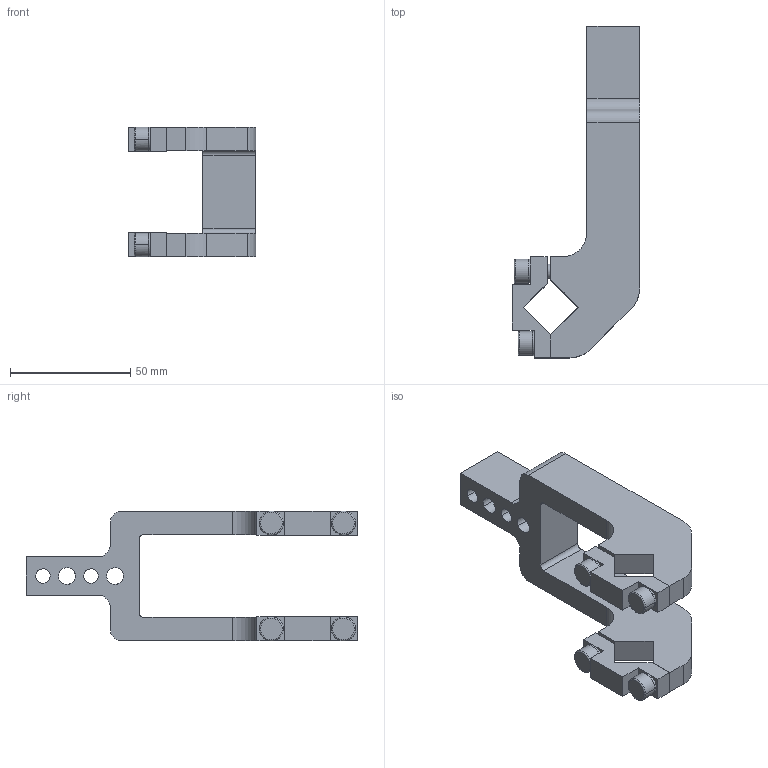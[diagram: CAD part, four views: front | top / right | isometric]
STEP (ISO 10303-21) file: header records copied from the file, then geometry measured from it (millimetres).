
FILE_DESCRIPTION(('CATIA V5 STEP Exchange'),'2;1');
FILE_NAME('E:\clampact\CLAMPACT\clampact\catalog\Clampact Arm\Arm 3D\Clampact Arm\arm_K40_15_A10_Clampact.stp','2022-12-06T07:34:28+00:00',('none'),('none'),'CATIA Version 5 Release 19 SP 6 (IN-10)','CATIA V5 STEP AP203','none');
FILE_SCHEMA(('CONFIG_CONTROL_DESIGN'));
Length unit declared in the file: millimetre
Products named in the file (1): K40_15_A10_Clampact_柯莱普
Bounding box: 53 x 138 x 54 mm (x, y, z)
Volume: 75770.7 mm3; surface area: 25886.1 mm2
Topology: 1 solids, 5 shells, 160 faces, 402 edges, 252 vertices
Faces by surface type: plane 76, cylinder 52, cone 20, torus 12
Entity records: 4548 total; most frequent: CARTESIAN_POINT 913, ORIENTED_EDGE 788, DIRECTION 615, EDGE_CURVE 394, AXIS2_PLACEMENT_3D 260, VERTEX_POINT 252, VECTOR 237, LINE 237
